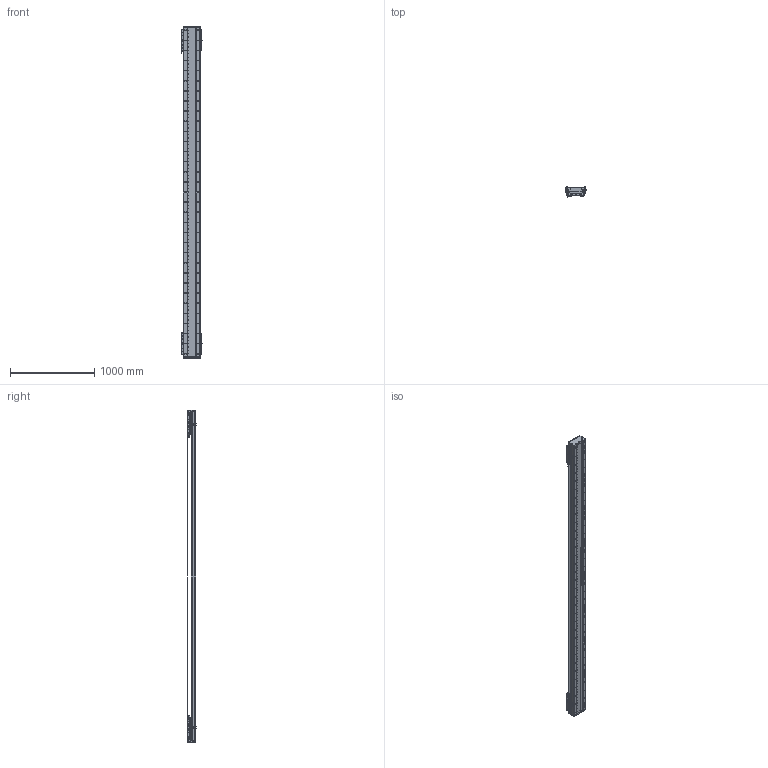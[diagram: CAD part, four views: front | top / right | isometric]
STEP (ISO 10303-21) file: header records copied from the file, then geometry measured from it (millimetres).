
FILE_DESCRIPTION (( 'STEP AP203' ), '1' );
FILE_NAME ('DA-C195-2-C3-T3320-C010-0.2 眻盄萇儂.STEP', '2025-08-15T00:55:19', ( '' ), ( '' ), 'SwSTEP 2.0', 'SolidWorks 2019', '' );
FILE_SCHEMA (( 'CONFIG_CONTROL_DESIGN' ));
Length unit declared in the file: millimetre
Products named in the file (19): DA95-HXJ-00 遣喳砎蝶; DKW168-HXJ-ZJ-00 笢潔滅袉砎蝶; 葩璃 DA95-GT-T-00; IU-CU195-L-00 菁釱(L3900); DA195詩湍菜輸; DA-C195-GD-DB-H-00 傷啣; CU195-C3賑輸-俋楷; LMT黍杅芛; DA165-GYP-00 光电感应片(默认); MS200 棠掑喜S315-T240; DKW-KGZ-ZJ-00 中间光电开关支架; PM-T45ㄗ侂狟ㄘ; DA195詩湍嶺輸; IU-CU195-L 菁釱絳寢; DA195詩湍裔啣; PM-Y65嫖萇羲壽郪璃; DA-C195-2-C3-T3320-C010-0.2 眻盄萇儂; DKW-GYP-ZJ-00 笢潔嫖萇覜茼え; DA195詩湍郪璃
Assembly tree (37 placements, depth 3):
  DA-C195-2-C3-T3320-C010-0.2 眻盄萇儂
    DA195詩湍郪璃
      DA195詩湍菜輸  x2
      DA195詩湍裔啣
      DA195詩湍嶺輸  x2
      DA95-HXJ-00 遣喳砎蝶  x8
      DA-C195-GD-DB-H-00 傷啣  x2
    IU-CU195-L 菁釱絳寢
      IU-CU195-L-00 菁釱(L3900)
      葩璃 DA95-GT-T-00  x4
    LMT黍杅芛  x2
    MS200 棠掑喜S315-T240
    PM-T45ㄗ侂狟ㄘ  x4
    DA165-GYP-00 光电感应片(默认)  x2
    PM-Y65嫖萇羲壽郪璃
    DKW168-HXJ-ZJ-00 笢潔滅袉砎蝶
    DKW-GYP-ZJ-00 笢潔嫖萇覜茼え
    DKW-KGZ-ZJ-00 中间光电开关支架
    CU195-C3賑輸-俋楷  x2
Bounding box: 258.2 x 115.45 x 3940 mm (x, y, z)
Volume: 23663582.9 mm3; surface area: 6929095.2 mm2
Topology: 154 solids, 218 shells, 7451 faces, 20583 edges, 12917 vertices
Faces by surface type: cylinder 3826, plane 2573, cone 884, torus 88, sphere 72, bspline 8
Entity records: 178853 total; most frequent: CARTESIAN_POINT 51553, ORIENTED_EDGE 27182, DIRECTION 25024, EDGE_CURVE 13591, AXIS2_PLACEMENT_3D 9265, VERTEX_POINT 8842, VECTOR 6494, LINE 6494
